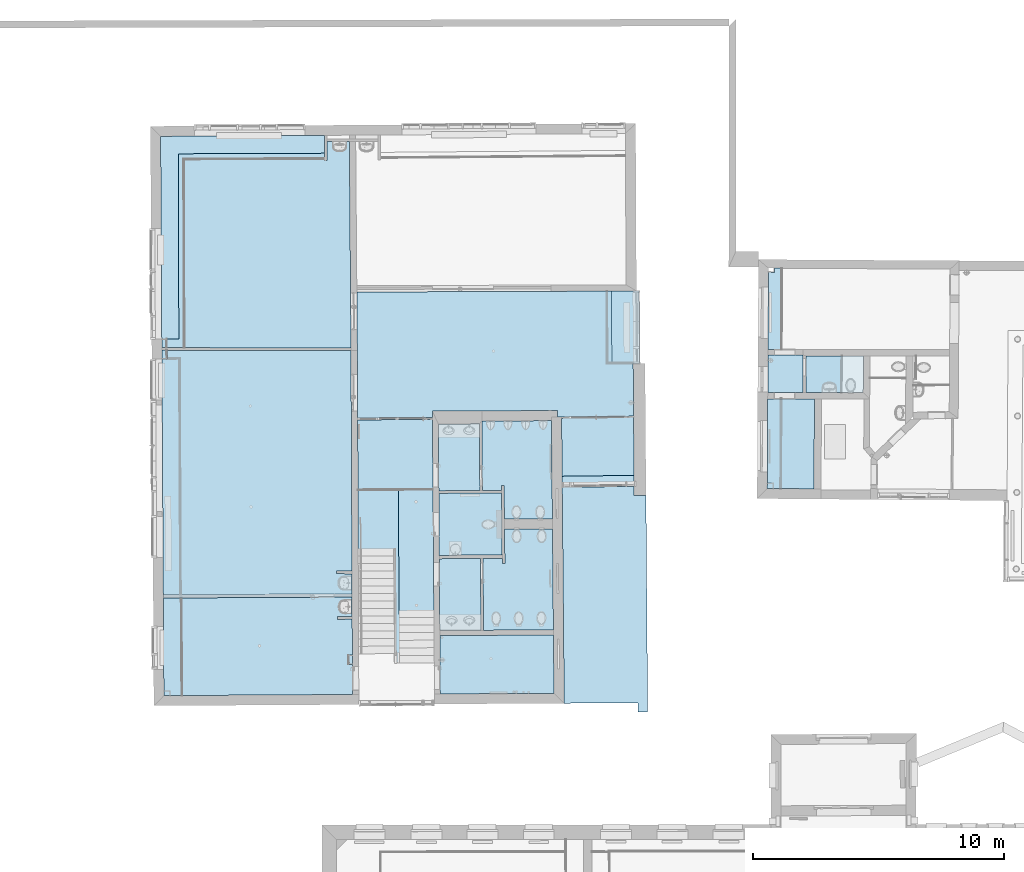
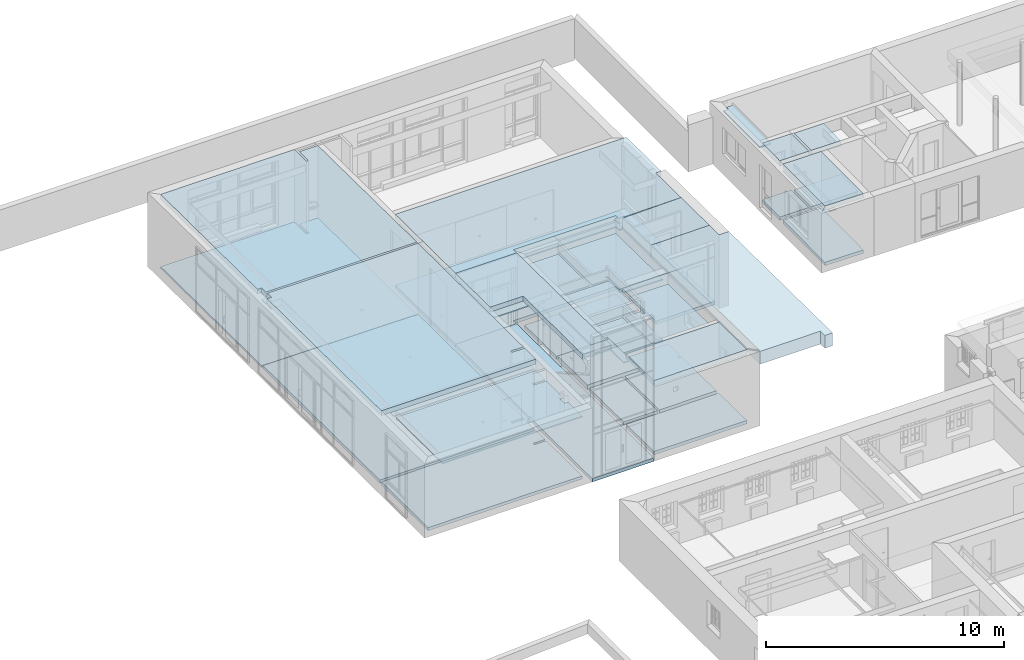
# One storey, part 11 of 196: 37 slabs.
"""IFC2X3 building model written with IfcOpenShell, lengths in metres."""

from ifc_helpers import new_model, entity, si_unit, converted_unit, derived_unit, money_unit, direction, frame, origin_with_axes, place, context, subcontext, project, spatial, polyline, outline, extrude, material, layer, layer_set, layer_usage, type_object, element, save


model = new_model("IFC2X3")

# Units and contexts
model_context = context("Model", 3, precision=1e-05, world=origin_with_axes(), true_north=direction((0.0, 1.0)))
body_context = subcontext(model_context, "Body", "Model", "MODEL_VIEW")
ifc_project = project(units=[si_unit("LENGTHUNIT", "METRE"), si_unit("AREAUNIT", "SQUARE_METRE"), si_unit("VOLUMEUNIT", "CUBIC_METRE"), converted_unit("PLANEANGLEUNIT", "DEGREE", entity("IfcPlaneAngleMeasure", 0.0174532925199), si_unit("PLANEANGLEUNIT", "RADIAN"), dimensions=[0, 0, 0, 0, 0, 0, 0]), money_unit("EUR"), converted_unit("TIMEUNIT", "Year", entity("IfcTimeMeasure", 31556926.0), si_unit("TIMEUNIT", "SECOND"), dimensions=[0, 0, 1, 0, 0, 0, 0]), si_unit("MASSUNIT", "GRAM", prefix="KILO"), si_unit("THERMODYNAMICTEMPERATUREUNIT", "DEGREE_CELSIUS"), si_unit("LUMINOUSINTENSITYUNIT", "LUMEN"), si_unit("ENERGYUNIT", "JOULE", prefix="MEGA"), derived_unit("THERMALCONDUCTANCEUNIT", [(si_unit("POWERUNIT", "WATT"), 1), (si_unit("LENGTHUNIT", "METRE"), -1), (si_unit("THERMODYNAMICTEMPERATUREUNIT", "KELVIN"), -1)]), derived_unit("SPECIFICHEATCAPACITYUNIT", [(si_unit("ENERGYUNIT", "JOULE"), 1), (si_unit("MASSUNIT", "GRAM", prefix="KILO"), -1), (si_unit("THERMODYNAMICTEMPERATUREUNIT", "KELVIN"), -1)]), derived_unit("MASSDENSITYUNIT", [(si_unit("MASSUNIT", "GRAM", prefix="KILO"), 1), (si_unit("VOLUMEUNIT", "CUBIC_METRE"), -1)])], contexts=[model_context])

# Site, building, storey
site_placement = place(None, origin_with_axes())
site = spatial("IfcSite", under=ifc_project, at=site_placement, Name="Gelände", CompositionType="ELEMENT")
building_placement = place(site_placement, origin_with_axes())
building = spatial("IfcBuilding", under=site, at=building_placement, Name="Gebäude", CompositionType="ELEMENT")
storey_placement = place(building_placement, frame((0.0, 0.0, -3.0), z_axis=(0.0, 0.0, 1.0), x_axis=(1.0, 0.0, 0.0)))
storey = spatial("IfcBuildingStorey", under=building, at=storey_placement, Name="KELLERGESCHOSS", CompositionType="ELEMENT", Elevation=-3.0)

# Slabs
ifc_material_1 = material(Name="05_ALLGEMEIN - TRAGENDE BAUTEILE")
ifc_layer_1 = layer(ifc_material_1, 0.26, ventilated="UNKNOWN")
ifc_layer_set_1 = layer_set([ifc_layer_1], Name="05_ALLGEMEIN - TRAGENDE BAUTEILE 0.26")
ifc_layer_usage_1 = layer_usage(ifc_layer_set_1, "AXIS3", "NEGATIVE", 0.26)
slab_type_1 = type_object("IfcSlabType", Name="05_ALLGEMEIN - TRAGENDE BAUTEILE 260", PredefinedType="NOTDEFINED")
slab_1_placement = place(storey_placement, frame((-34.4955833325, 44.6455932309, 3.8), z_axis=(0.0, 0.0, 1.0), x_axis=(1.0, 0.0, 0.0)))
element("IfcSlab", 1, at=slab_1_placement, inside=storey, type_object=slab_type_1, material=ifc_layer_usage_1, Name="Belag-004", PredefinedType="NOTDEFINED", context=body_context, shape_type="SweptSolid", body=[
    extrude(outline(polyline([(0.0, 0.0), (0.0558068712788, -9.51553296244), (7.57384137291, -9.47826287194), (7.56976644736, -8.55310763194), (6.95371037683, -8.54546593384), (6.95501258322, -8.44047405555), (7.56930400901, -8.44809370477), (7.53057163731, 0.345453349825), (7.53055928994, 0.347041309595), (0.213225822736, 0.34895603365), (0.214489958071, -0.00146771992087), (0.0, 0.0)])), origin_with_axes(), (0.0, 0.0, 1.0), 0.26),
])
ifc_layer_usage_2 = layer_usage(ifc_layer_set_1, "AXIS3", "NEGATIVE", 0.26)
slab_2_placement = place(storey_placement, frame((-26.7031726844, 42.3037204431, 3.8), z_axis=(0.0, 0.0, 1.0), x_axis=(1.0, 0.0, 0.0)))
element("IfcSlab", 2, at=slab_2_placement, inside=storey, type_object=slab_type_1, material=ifc_layer_usage_2, Name="Belag-005", PredefinedType="NOTDEFINED", context=body_context, shape_type="SweptSolid", body=[
    extrude(outline(polyline([(0.0, 0.0), (0.0127042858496, -2.88429875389), (1.62561769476, -2.87437844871), (1.64928907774, -7.83139113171), (3.03779351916, -7.81930969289), (2.980131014, 0.0119029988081), (0.0, 0.0)])), origin_with_axes(), (0.0, 0.0, 1.0), 0.26),
])
ifc_layer_usage_3 = layer_usage(ifc_layer_set_1, "AXIS3", "NEGATIVE", 0.26)
slab_3_placement = place(storey_placement, frame((-23.4291121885, 33.6341320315, 3.8), z_axis=(0.0, 0.0, 1.0), x_axis=(1.0, 0.0, 0.0)))
element("IfcSlab", 3, at=slab_3_placement, inside=storey, type_object=slab_type_1, material=ifc_layer_usage_3, Name="Belag-005", PredefinedType="NOTDEFINED", context=body_context, shape_type="SweptSolid", body=[
    extrude(outline(polyline([(0.0, 0.0), (0.0171166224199, -2.32462733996), (4.54606110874, -2.29751950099), (4.52483819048, 0.027002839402), (0.23475687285, 0.001400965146), (0.0, 0.0)])), origin_with_axes(), (0.0, 0.0, 1.0), 0.26),
])
ifc_layer_2 = layer(ifc_material_1, 0.21, ventilated="UNKNOWN")
ifc_layer_set_2 = layer_set([ifc_layer_2], Name="05_ALLGEMEIN - TRAGENDE BAUTEILE 0.21")
ifc_layer_usage_4 = layer_usage(ifc_layer_set_2, "AXIS3", "NEGATIVE", 0.21)
slab_type_2 = type_object("IfcSlabType", Name="05_ALLGEMEIN - TRAGENDE BAUTEILE 210", PredefinedType="NOTDEFINED")
slab_4_placement = place(storey_placement, frame((-10.3745432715, 43.0482890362, 3.29), z_axis=(0.0, 0.0, 1.0), x_axis=(1.0, 0.0, 0.0)))
element("IfcSlab", 4, at=slab_4_placement, inside=storey, type_object=slab_type_2, material=ifc_layer_usage_4, Name="Belag-008", PredefinedType="NOTDEFINED", context=body_context, shape_type="SweptSolid", body=[
    extrude(outline(polyline([(0.0, 0.0), (-0.0199024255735, -3.55736319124), (1.84337639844, -3.57275189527), (1.85895913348, -0.00164627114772), (0.0, 0.0)])), origin_with_axes(), (0.0, 0.0, 1.0), 0.21),
])
ifc_layer_3 = layer(ifc_material_1, 0.17, ventilated="UNKNOWN")
ifc_layer_set_3 = layer_set([ifc_layer_3], Name="05_ALLGEMEIN - TRAGENDE BAUTEILE 0.17")
ifc_layer_usage_5 = layer_usage(ifc_layer_set_3, "AXIS3", "NEGATIVE", 0.17)
slab_type_3 = type_object("IfcSlabType", Name="05_ALLGEMEIN - TRAGENDE BAUTEILE 170", PredefinedType="NOTDEFINED")
slab_5_placement = place(storey_placement, frame((-15.7142088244, 42.3691652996, 0.42), z_axis=(0.0, 0.0, 1.0), x_axis=(1.0, 0.0, 0.0)))
element("IfcSlab", 5, at=slab_5_placement, inside=storey, type_object=slab_type_3, material=ifc_layer_usage_5, Name="Belag-008", PredefinedType="NOTDEFINED", context=body_context, shape_type="SweptSolid", body=[
    extrude(outline(polyline([(0.0, 0.0), (-2.86923707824, -0.0346039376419), (-2.84372714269, -2.82867616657), (0.0215711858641, -2.7951869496), (0.0, 0.0)])), frame((0.0, 0.0, -0.17), z_axis=(0.0, 0.0, 1.0), x_axis=(1.0, 0.0, 0.0)), (0.0, 0.0, 1.0), 0.17),
])
ifc_layer_usage_6 = layer_usage(ifc_layer_set_3, "AXIS3", "NEGATIVE", 0.17)
slab_6_placement = place(storey_placement, frame((-26.7341125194, 47.3135195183, 0.42), z_axis=(0.0, 0.0, 1.0), x_axis=(1.0, 0.0, 0.0)))
element("IfcSlab", 6, at=slab_6_placement, inside=storey, type_object=slab_type_3, material=ifc_layer_usage_6, Name="Belag-008", PredefinedType="NOTDEFINED", context=body_context, shape_type="SweptSolid", body=[
    extrude(outline(polyline([(0.0, 0.0), (0.0309398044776, -5.00979907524), (3.01107082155, -4.9978960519), (3.00917895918, -4.7409513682), (7.98831566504, -4.72218749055), (7.990673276, -4.98041898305), (8.15066655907, -4.97895812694), (11.0199037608, -4.94435426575), (11.0037564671, -2.8520056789), (11.2633617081, -2.8499963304), (11.2409811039, 0.0414227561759), (11.1309843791, 0.0405713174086), (10.98098883, 0.0394103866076), (0.0, 0.0)])), frame((0.0, 0.0, -0.17), z_axis=(0.0, 0.0, 1.0), x_axis=(1.0, 0.0, 0.0)), (0.0, 0.0, 1.0), 0.17),
])
ifc_layer_usage_7 = layer_usage(ifc_layer_set_3, "AXIS3", "NEGATIVE", 0.17)
slab_7_placement = place(storey_placement, frame((-10.3730327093, 43.3182878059, 0.61), z_axis=(0.0, 0.0, 1.0), x_axis=(1.0, 0.0, 0.0)))
element("IfcSlab", 7, at=slab_7_placement, inside=storey, type_object=slab_type_3, material=ifc_layer_usage_7, Name="Belag-008", PredefinedType="NOTDEFINED", context=body_context, shape_type="SweptSolid", body=[
    extrude(outline(polyline([(0.0, 0.0), (1.40445707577, -0.00124377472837), (1.41083773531, 1.48422035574), (0.00830172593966, 1.48385109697), (0.0, 0.0)])), frame((0.0, 0.0, -0.17), z_axis=(0.0, 0.0, 1.0), x_axis=(1.0, 0.0, 0.0)), (0.0, 0.0, 1.0), 0.17),
])
ifc_layer_usage_8 = layer_usage(ifc_layer_set_3, "AXIS3", "NEGATIVE", 0.17)
slab_8_placement = place(storey_placement, frame((-21.8547375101, 42.069612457, 0.42), z_axis=(0.0, 0.0, 1.0), x_axis=(1.0, 0.0, 0.0)))
element("IfcSlab", 8, at=slab_8_placement, inside=storey, type_object=slab_type_3, material=ifc_layer_usage_8, Name="Belag-008", PredefinedType="NOTDEFINED", context=body_context, shape_type="SweptSolid", body=[
    extrude(outline(polyline([(0.0, 0.0), (-1.63644109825, -0.00616690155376), (-1.61682757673, -2.66990112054), (0.0175572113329, -2.66293450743), (0.0, 0.0)])), frame((0.0, 0.0, -0.17), z_axis=(0.0, 0.0, 1.0), x_axis=(1.0, 0.0, 0.0)), (0.0, 0.0, 1.0), 0.17),
])
ifc_layer_usage_9 = layer_usage(ifc_layer_set_3, "AXIS3", "NEGATIVE", 0.17)
slab_9_placement = place(storey_placement, frame((-10.3745432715, 43.0482890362, 0.61), z_axis=(0.0, 0.0, 1.0), x_axis=(1.0, 0.0, 0.0)))
element("IfcSlab", 9, at=slab_9_placement, inside=storey, type_object=slab_type_3, material=ifc_layer_usage_9, Name="Belag-009", PredefinedType="NOTDEFINED", context=body_context, shape_type="SweptSolid", body=[
    extrude(outline(polyline([(0.0, 0.0), (-0.0199024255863, -3.55736319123), (1.84337639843, -3.57275189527), (1.85895913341, -0.00164627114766), (0.0, 0.0)])), frame((0.0, 0.0, -0.17), z_axis=(0.0, 0.0, 1.0), x_axis=(1.0, 0.0, 0.0)), (0.0, 0.0, 1.0), 0.17),
])
ifc_layer_usage_10 = layer_usage(ifc_layer_set_3, "AXIS3", "NEGATIVE", 0.17)
slab_10_placement = place(storey_placement, frame((-20.942633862, 36.7075532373, 0.42), z_axis=(0.0, 0.0, 1.0), x_axis=(1.0, 0.0, 0.0)))
element("IfcSlab", 10, at=slab_10_placement, inside=storey, type_object=slab_type_3, material=ifc_layer_usage_10, Name="Belag-010", PredefinedType="NOTDEFINED", context=body_context, shape_type="SweptSolid", body=[
    extrude(outline(polyline([(0.0, 0.0), (-0.772396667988, -0.00453644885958), (-0.744695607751, -2.86302322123), (2.03653392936, -2.84642567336), (1.99988448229, 1.16774204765), (0.0873328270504, 1.16397596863), (0.102174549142, -0.199176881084), (0.00218047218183, -0.200265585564), (0.0, 0.0)])), frame((0.0, 0.0, -0.17), z_axis=(0.0, 0.0, 1.0), x_axis=(1.0, 0.0, 0.0)), (0.0, 0.0, 1.0), 0.17),
])
ifc_layer_usage_11 = layer_usage(ifc_layer_set_3, "AXIS3", "NEGATIVE", 0.17)
slab_11_placement = place(storey_placement, frame((-21.8150295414, 36.7024294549, 0.42), z_axis=(0.0, 0.0, 1.0), x_axis=(1.0, 0.0, 0.0)))
element("IfcSlab", 11, at=slab_11_placement, inside=storey, type_object=slab_type_3, material=ifc_layer_usage_11, Name="Belag-011", PredefinedType="NOTDEFINED", context=body_context, shape_type="SweptSolid", body=[
    extrude(outline(polyline([(0.0, 0.0), (-1.63660424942, -0.00961212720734), (-1.61555525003, -2.86830266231), (0.0277011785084, -2.85849619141), (0.0, 0.0)])), frame((0.0, 0.0, -0.17), z_axis=(0.0, 0.0, 1.0), x_axis=(1.0, 0.0, 0.0)), (0.0, 0.0, 1.0), 0.17),
])
ifc_layer_usage_12 = layer_usage(ifc_layer_set_3, "AXIS3", "NEGATIVE", 0.17)
slab_12_placement = place(storey_placement, frame((-23.4291121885, 33.6341320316, 0.42), z_axis=(0.0, 0.0, 1.0), x_axis=(1.0, 0.0, 0.0)))
element("IfcSlab", 12, at=slab_12_placement, inside=storey, type_object=slab_type_3, material=ifc_layer_usage_12, Name="Belag-012", PredefinedType="NOTDEFINED", context=body_context, shape_type="SweptSolid", body=[
    extrude(outline(polyline([(0.0, 0.0), (0.0171166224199, -2.32462733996), (4.54606110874, -2.29751950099), (4.52483819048, 0.027002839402), (0.23475687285, 0.001400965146), (0.0, 0.0)])), frame((0.0, 0.0, -0.17), z_axis=(0.0, 0.0, 1.0), x_axis=(1.0, 0.0, 0.0)), (0.0, 0.0, 1.0), 0.17),
])
ifc_layer_usage_13 = layer_usage(ifc_layer_set_3, "AXIS3", "NEGATIVE", 0.17)
slab_13_placement = place(storey_placement, frame((-26.703172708, 42.303720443, 0.42), z_axis=(0.0, 0.0, 1.0), x_axis=(1.0, 0.0, 0.0)))
element("IfcSlab", 13, at=slab_13_placement, inside=storey, type_object=slab_type_3, material=ifc_layer_usage_13, Name="Belag-013", PredefinedType="NOTDEFINED", context=body_context, shape_type="SweptSolid", body=[
    extrude(outline(polyline([(0.0, 0.0), (0.0485110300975, -11.01362463), (0.0536306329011, -11.0135939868), (0.0560247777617, -11.4135868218), (3.05490452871, -11.3956371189), (3.05251038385, -10.9956442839), (3.06118103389, -10.995592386), (2.98013103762, 0.0119029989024), (0.0, 0.0)])), frame((0.0, 0.0, -0.17), z_axis=(0.0, 0.0, 1.0), x_axis=(1.0, 0.0, 0.0)), (0.0, 0.0, 1.0), 0.17),
])
ifc_layer_4 = layer(ifc_material_1, 0.250000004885, ventilated="UNKNOWN")
ifc_layer_set_4 = layer_set([ifc_layer_4], Name="05_ALLGEMEIN - TRAGENDE BAUTEILE 0.25")
ifc_layer_usage_14 = layer_usage(ifc_layer_set_4, "AXIS3", "NEGATIVE", 0.25)
slab_type_4 = type_object("IfcSlabType", Name="05_ALLGEMEIN - TRAGENDE BAUTEILE 250", PredefinedType="NOTDEFINED")
slab_14_placement = place(storey_placement, frame((-34.5475826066, 53.5118963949, 3.81), z_axis=(0.0, 0.0, 1.0), x_axis=(1.0, 0.0, 0.0)))
element("IfcSlab", 14, at=slab_14_placement, inside=storey, type_object=slab_type_4, material=ifc_layer_usage_14, Name="Belag-004", PredefinedType="NOTDEFINED", context=body_context, shape_type="SweptSolid", body=[
    extrude(outline(polyline([(0.0, 0.0), (0.0473177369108, -8.06805885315), (0.252868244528, -8.06646519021), (0.251825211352, -8.41734364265), (7.58178080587, -8.41926158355), (7.51791153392, -0.206428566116), (6.62663388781, -0.206935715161), (6.62406461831, -0.959581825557), (6.51906523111, -0.95922339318), (6.52247122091, 0.0385326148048), (0.0, 0.0)])), origin_with_axes(), (0.0, 0.0, 1.0), 0.25),
])
ifc_layer_usage_15 = layer_usage(ifc_layer_set_4, "AXIS3", "NEGATIVE", 0.25)
slab_15_placement = place(storey_placement, frame((-15.7531237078, 47.3529299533, 3.81), z_axis=(0.0, 0.0, 1.0), x_axis=(1.0, 0.0, 0.0)))
element("IfcSlab", 15, at=slab_15_placement, inside=storey, type_object=slab_type_4, material=ifc_layer_usage_15, Name="Belag-005", PredefinedType="NOTDEFINED", context=body_context, shape_type="SweptSolid", body=[
    extrude(outline(polyline([(0.0, 0.0), (-10.9809888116, -0.03941037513), (-10.9500488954, -5.04920951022), (-7.96991789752, -5.03730656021), (-7.97180986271, -4.78036164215), (-2.99267321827, -4.76159790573), (-2.99031552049, -5.01982942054), (-2.8303221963, -5.01836861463), (0.0389149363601, -4.98376459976), (0.0227676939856, -2.89141019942), (0.282372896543, -2.88940675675), (0.259992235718, 0.00201230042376), (0.0, 0.0)])), origin_with_axes(), (0.0, 0.0, 1.0), 0.25),
])
ifc_layer_usage_16 = layer_usage(ifc_layer_set_4, "AXIS3", "NEGATIVE", 0.25)
slab_16_placement = place(storey_placement, frame((-20.9709727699, 39.3103692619, 0.5), z_axis=(0.0, 0.0, 1.0), x_axis=(1.0, 0.0, 0.0)))
element("IfcSlab", 16, at=slab_16_placement, inside=storey, type_object=slab_type_4, material=ifc_layer_usage_16, Name="Belag-008", PredefinedType="NOTDEFINED", context=body_context, shape_type="SweptSolid", body=[
    extrude(outline(polyline([(0.0, 0.0), (-2.49985602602, -0.0106556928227), (-2.4816616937, -2.48165130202), (0.0268593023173, -2.46691822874), (0.0, 0.0)])), frame((0.0, 0.0, -0.25), z_axis=(0.0, 0.0, 1.0), x_axis=(1.0, 0.0, 0.0)), (0.0, 0.0, 1.0), 0.25),
])
ifc_layer_5 = layer(ifc_material_1, 0.1, ventilated="UNKNOWN")
ifc_layer_set_5 = layer_set([ifc_layer_5], Name="05_ALLGEMEIN - TRAGENDE BAUTEILE 0.1")
ifc_layer_usage_17 = layer_usage(ifc_layer_set_5, "AXIS3", "NEGATIVE", 0.1)
slab_type_5 = type_object("IfcSlabType", Name="05_ALLGEMEIN - TRAGENDE BAUTEILE 100", PredefinedType="NOTDEFINED")
slab_17_placement = place(storey_placement, frame((-34.5475826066, 53.5118963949, 0.35), z_axis=(0.0, 0.0, 1.0), x_axis=(1.0, 0.0, 0.0)))
element("IfcSlab", 17, at=slab_17_placement, inside=storey, type_object=slab_type_5, material=ifc_layer_usage_17, Name="Belag-008", PredefinedType="NOTDEFINED", context=body_context, shape_type="SweptSolid", body=[
    extrude(outline(polyline([(0.0, 0.0), (0.0493658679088, -8.41729058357), (7.58178080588, -8.41926158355), (7.51791153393, -0.206428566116), (6.62663388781, -0.206935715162), (6.62406461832, -0.959581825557), (6.51906523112, -0.959223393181), (6.52247122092, 0.0385326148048), (0.0, 0.0)])), frame((0.0, 0.0, -0.1), z_axis=(0.0, 0.0, 1.0), x_axis=(1.0, 0.0, 0.0)), (0.0, 0.0, 1.0), 0.1),
])
ifc_layer_6 = layer(ifc_material_1, 0.16, ventilated="UNKNOWN")
ifc_layer_set_6 = layer_set([ifc_layer_6], Name="05_ALLGEMEIN - TRAGENDE BAUTEILE 0.16")
ifc_layer_usage_18 = layer_usage(ifc_layer_set_6, "AXIS3", "NEGATIVE", 0.16)
slab_type_6 = type_object("IfcSlabType", Name="05_ALLGEMEIN - TRAGENDE BAUTEILE 160", PredefinedType="NOTDEFINED")
slab_18_placement = place(storey_placement, frame((-34.4397764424, 35.1300602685, 0.41), z_axis=(0.0, 0.0, 1.0), x_axis=(1.0, 0.0, 0.0)))
element("IfcSlab", 18, at=slab_18_placement, inside=storey, type_object=slab_type_6, material=ifc_layer_usage_18, Name="Belag-007", PredefinedType="NOTDEFINED", context=body_context, shape_type="SweptSolid", body=[
    extrude(outline(polyline([(0.0, 0.0), (0.0227931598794, -3.88642559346), (7.53511893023, -3.84146075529), (7.52190613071, -0.841715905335), (6.93134962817, -0.848940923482), (6.93006512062, -0.743948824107), (7.52144364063, -0.736713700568), (7.51803453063, 0.0372701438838), (0.0, 0.0)])), frame((0.0, 0.0, -0.16), z_axis=(0.0, 0.0, 1.0), x_axis=(1.0, 0.0, 0.0)), (0.0, 0.0, 1.0), 0.16),
])
ifc_layer_usage_19 = layer_usage(ifc_layer_set_6, "AXIS3", "NEGATIVE", 0.16)
slab_19_placement = place(storey_placement, frame((-8.8585750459, 43.316946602, 0.6), z_axis=(0.0, 0.0, 1.0), x_axis=(1.0, 0.0, 0.0)))
element("IfcSlab", 19, at=slab_19_placement, inside=storey, type_object=slab_type_6, material=ifc_layer_usage_19, Name="Belag-008", PredefinedType="NOTDEFINED", context=body_context, shape_type="SweptSolid", body=[
    extrude(outline(polyline([(0.0, 0.0), (2.28626936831, -0.00202468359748), (2.29400787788, 1.45619277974), (0.00625235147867, 1.45559046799), (0.0, 0.0)])), frame((0.0, 0.0, -0.16), z_axis=(0.0, 0.0, 1.0), x_axis=(1.0, 0.0, 0.0)), (0.0, 0.0, 1.0), 0.16),
])
ifc_layer_7 = layer(ifc_material_1, 0.28, ventilated="UNKNOWN")
ifc_layer_set_7 = layer_set([ifc_layer_7], Name="05_ALLGEMEIN - TRAGENDE BAUTEILE 0.28")
ifc_layer_usage_20 = layer_usage(ifc_layer_set_7, "AXIS3", "NEGATIVE", 0.28)
slab_type_7 = type_object("IfcSlabType", Name="05_ALLGEMEIN - TRAGENDE BAUTEILE 280", PredefinedType="NOTDEFINED")
slab_20_placement = place(storey_placement, frame((-8.8585750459, 43.3169466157, 3.22), z_axis=(0.0, 0.0, 1.0), x_axis=(1.0, 0.0, 0.0)))
element("IfcSlab", 20, at=slab_20_placement, inside=storey, type_object=slab_type_7, material=ifc_layer_usage_20, Name="Belag-006", PredefinedType="NOTDEFINED", context=body_context, shape_type="SweptSolid", body=[
    extrude(outline(polyline([(0.0, 0.0), (1.43577120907, -0.00127150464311), (1.4526355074, 1.45597126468), (0.00625236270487, 1.45559046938), (0.0, 0.0)])), origin_with_axes(), (0.0, 0.0, 1.0), 0.28),
])
ifc_layer_8 = layer(ifc_material_1, 0.29, ventilated="UNKNOWN")
ifc_layer_set_8 = layer_set([ifc_layer_8], Name="05_ALLGEMEIN - TRAGENDE BAUTEILE 0.29")
ifc_layer_usage_21 = layer_usage(ifc_layer_set_8, "AXIS3", "NEGATIVE", 0.29)
slab_type_8 = type_object("IfcSlabType", Name="05_ALLGEMEIN - TRAGENDE BAUTEILE 290", PredefinedType="NOTDEFINED")
slab_21_placement = place(storey_placement, frame((-10.3647309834, 44.8021389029, 3.21), z_axis=(0.0, 0.0, 1.0), x_axis=(1.0, 0.0, 0.0)))
element("IfcSlab", 21, at=slab_21_placement, inside=storey, type_object=slab_type_8, material=ifc_layer_usage_21, Name="Belag-005", PredefinedType="NOTDEFINED", context=body_context, shape_type="SweptSolid", body=[
    extrude(outline(polyline([(0.0, 0.0), (-0.0083017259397, -1.48385109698), (1.39615534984, -1.48509487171), (1.40253600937, 0.00036925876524), (0.0, 0.0)])), origin_with_axes(), (0.0, 0.0, 1.0), 0.29),
])
ifc_material_2 = material(Name="01_ALLGEMEIN - BAUTEIL")
ifc_layer_9 = layer(ifc_material_2, 0.06, ventilated="UNKNOWN")
ifc_layer_set_9 = layer_set([ifc_layer_9], Name="01_ALLGEMEIN - BAUTEIL 0.06")
ifc_layer_usage_22 = layer_usage(ifc_layer_set_9, "AXIS3", "NEGATIVE", 0.06)
slab_type_9 = type_object("IfcSlabType", Name="01_ALLGEMEIN - BAUTEIL 60", PredefinedType="NOTDEFINED")
slab_22_placement = place(storey_placement, frame((-26.921741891, 35.167330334, 3.42), z_axis=(0.0, 0.0, 1.0), x_axis=(1.0, 0.0, 0.0)))
element("IfcSlab", 22, at=slab_22_placement, inside=storey, type_object=slab_type_9, material=ifc_layer_usage_22, Name="Belag-004", PredefinedType="NOTDEFINED", context=body_context, shape_type="SweptSolid", body=[
    extrude(outline(polyline([(0.0, 0.0), (-6.81373569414, -0.0337786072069), (-6.78902724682, -3.9194686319), (0.0170843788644, -3.87873083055), (0.0118070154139, -2.68058916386), (-0.153250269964, -2.68122197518), (-0.155655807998, -2.30850201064), (0.0101680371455, -2.30850201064), (0.00387157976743, -0.878986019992), (-0.586684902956, -0.886211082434), (-0.587969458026, -0.781218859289), (0.00340905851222, -0.773983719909), (0.0, 0.0)])), origin_with_axes(), (0.0, 0.0, 1.0), 0.06),
])
ifc_layer_usage_23 = layer_usage(ifc_layer_set_9, "AXIS3", "NEGATIVE", 0.06)
slab_23_placement = place(storey_placement, frame((-28.0262375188, 52.838283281, 3.42), z_axis=(0.0, 0.0, 1.0), x_axis=(1.0, 0.0, 0.0)))
element("IfcSlab", 23, at=slab_23_placement, inside=storey, type_object=slab_type_9, material=ifc_layer_usage_23, Name="Belag-004", PredefinedType="NOTDEFINED", context=body_context, shape_type="SweptSolid", body=[
    extrude(outline(polyline([(0.0, 0.0), (-5.81315082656, -0.0227574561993), (-5.79450652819, -7.38844681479), (-6.26849209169, -7.39799145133), (-6.26951990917, -7.74373050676), (1.0604357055, -7.74564846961), (0.996566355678, 0.467184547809), (0.105288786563, 0.466677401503), (0.102719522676, -0.285968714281), (-0.00227983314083, -0.285610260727), (0.0, 0.0)])), origin_with_axes(), (0.0, 0.0, 1.0), 0.06),
])
ifc_layer_usage_24 = layer_usage(ifc_layer_set_9, "AXIS3", "NEGATIVE", 0.06)
slab_24_placement = place(storey_placement, frame((-16.5977035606, 47.3498987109, 3.43), z_axis=(0.0, 0.0, 1.0), x_axis=(1.0, 0.0, 0.0)))
element("IfcSlab", 24, at=slab_24_placement, inside=storey, type_object=slab_type_9, material=ifc_layer_usage_24, Name="Belag-004", PredefinedType="NOTDEFINED", context=body_context, shape_type="SweptSolid", body=[
    extrude(outline(polyline([(0.0, 0.0), (-10.1353620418, -0.036375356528), (-10.1173125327, -2.35732946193), (-10.1054693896, -5.04613245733), (-10.1054690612, -5.04617826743), (-7.12533810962, -5.0342751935), (-7.12722995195, -4.77733059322), (-2.14809337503, -4.7585666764), (-2.14573571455, -5.01679822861), (-1.98574581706, -5.01533739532), (-1.98575780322, -5.01430888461), (0.883326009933, -4.98073533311), (0.883494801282, -4.98073336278), (0.867347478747, -2.88838497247), (0.866960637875, -2.88838792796), (0.866960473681, -2.88837709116), (0.0175153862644, -2.88436238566), (0.0, 0.0)])), origin_with_axes(), (0.0, 0.0, 1.0), 0.06),
])
ifc_layer_usage_25 = layer_usage(ifc_layer_set_9, "AXIS3", "NEGATIVE", 0.06)
slab_25_placement = place(storey_placement, frame((-23.4911786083, 42.0634455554, 3.43), z_axis=(0.0, 0.0, 1.0), x_axis=(1.0, 0.0, 0.0)))
element("IfcSlab", 25, at=slab_25_placement, inside=storey, type_object=slab_type_9, material=ifc_layer_usage_25, Name="Belag-004", PredefinedType="NOTDEFINED", context=body_context, shape_type="SweptSolid", body=[
    extrude(outline(polyline([(0.0, 0.0), (0.0196135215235, -2.66373421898), (1.65399830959, -2.65676760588), (1.63644109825, 0.00616690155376), (0.0, 0.0)])), origin_with_axes(), (0.0, 0.0, 1.0), 0.06),
])
ifc_layer_usage_26 = layer_usage(ifc_layer_set_9, "AXIS3", "NEGATIVE", 0.06)
slab_26_placement = place(storey_placement, frame((-20.9709727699, 39.3103692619, 3.43), z_axis=(0.0, 0.0, 1.0), x_axis=(1.0, 0.0, 0.0)))
element("IfcSlab", 26, at=slab_26_placement, inside=storey, type_object=slab_type_9, material=ifc_layer_usage_26, Name="Belag-004", PredefinedType="NOTDEFINED", context=body_context, shape_type="SweptSolid", body=[
    extrude(outline(polyline([(0.0, 0.0), (-2.49985602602, -0.0106556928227), (-2.4816616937, -2.48165130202), (0.0268593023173, -2.46691822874), (0.0, 0.0)])), origin_with_axes(), (0.0, 0.0, 1.0), 0.06),
])
ifc_layer_usage_27 = layer_usage(ifc_layer_set_9, "AXIS3", "NEGATIVE", 0.06)
slab_27_placement = place(storey_placement, frame((-26.9223145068, 35.2973291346, 3.42), z_axis=(0.0, 0.0, 1.0), x_axis=(1.0, 0.0, 0.0)))
element("IfcSlab", 27, at=slab_27_placement, inside=storey, type_object=slab_type_9, material=ifc_layer_usage_27, Name="Belag-004", PredefinedType="NOTDEFINED", context=body_context, shape_type="SweptSolid", body=[
    extrude(outline(polyline([(0.0, 0.0), (-0.00350237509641, 0.795156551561), (-0.619558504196, 0.802798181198), (-0.618256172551, 0.907790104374), (-0.00396492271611, 0.900170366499), (-0.042697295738, 9.69371740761), (-7.3600429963, 9.69722012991), (-7.35877880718, 9.34679639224), (-6.88108539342, 9.34942714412), (-6.83929052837, -0.0356195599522), (0.0, 0.0)])), origin_with_axes(), (0.0, 0.0, 1.0), 0.06),
])
ifc_layer_usage_28 = layer_usage(ifc_layer_set_9, "AXIS3", "NEGATIVE", 0.06)
slab_28_placement = place(storey_placement, frame((-21.8150295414, 36.7024294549, 3.42), z_axis=(0.0, 0.0, 1.0), x_axis=(1.0, 0.0, 0.0)))
element("IfcSlab", 28, at=slab_28_placement, inside=storey, type_object=slab_type_9, material=ifc_layer_usage_28, Name="Belag-005", PredefinedType="NOTDEFINED", context=body_context, shape_type="SweptSolid", body=[
    extrude(outline(polyline([(0.0, 0.0), (-1.63660424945, -0.00961212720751), (-1.61555525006, -2.86830266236), (0.0277011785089, -2.85849619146), (0.0, 0.0)])), origin_with_axes(), (0.0, 0.0, 1.0), 0.06),
])
ifc_layer_usage_29 = layer_usage(ifc_layer_set_9, "AXIS3", "NEGATIVE", 0.06)
slab_29_placement = place(storey_placement, frame((-26.7028203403, 42.2237211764, 3.42), z_axis=(0.0, 0.0, 1.0), x_axis=(1.0, 0.0, 0.0)))
element("IfcSlab", 29, at=slab_29_placement, inside=storey, type_object=slab_type_9, material=ifc_layer_usage_29, Name="Belag-005", PredefinedType="NOTDEFINED", context=body_context, shape_type="SweptSolid", body=[
    extrude(outline(polyline([(0.0, 0.0), (0.0123519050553, -2.80429948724), (3.00096853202, -2.78591785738), (2.97977865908, 0.0919023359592), (2.97975491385, 0.0919022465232), (2.98007442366, 0.0119027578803), (0.0, 0.0)])), origin_with_axes(), (0.0, 0.0, 1.0), 0.06),
])
ifc_layer_usage_30 = layer_usage(ifc_layer_set_9, "AXIS3", "NEGATIVE", 0.06)
slab_30_placement = place(storey_placement, frame((-21.71503053, 36.7030167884, 3.42), z_axis=(0.0, 0.0, 1.0), x_axis=(1.0, 0.0, 0.0)))
element("IfcSlab", 30, at=slab_30_placement, inside=storey, type_object=slab_type_9, material=ifc_layer_usage_30, Name="Belag-005", PredefinedType="NOTDEFINED", context=body_context, shape_type="SweptSolid", body=[
    extrude(outline(polyline([(0.0, 0.0), (0.0277010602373, -2.85848677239), (2.80893059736, -2.84188922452), (2.77228115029, 1.17227849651), (0.859729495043, 1.16851241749), (0.874571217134, -0.194640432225), (0.774577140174, -0.195729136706), (0.772396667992, 0.00453644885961), (0.0, 0.0)])), origin_with_axes(), (0.0, 0.0, 1.0), 0.06),
])
ifc_layer_usage_31 = layer_usage(ifc_layer_set_9, "AXIS3", "NEGATIVE", 0.06)
slab_31_placement = place(storey_placement, frame((-18.9821467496, 42.1904385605, 3.42), z_axis=(0.0, 0.0, 1.0), x_axis=(1.0, 0.0, 0.0)))
element("IfcSlab", 31, at=slab_31_placement, inside=storey, type_object=slab_type_9, material=ifc_layer_usage_31, Name="Belag-005", PredefinedType="NOTDEFINED", context=body_context, shape_type="SweptSolid", body=[
    extrude(outline(polyline([(0.0, 0.0), (-2.77331630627, -0.0104512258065), (-2.75503417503, -2.78333434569), (-1.98991477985, -2.78007301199), (-1.99215124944, -2.57466141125), (-1.89215718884, -2.57357270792), (-1.87761821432, -3.90891735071), (0.0356540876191, -3.90514984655), (0.0, 0.0)])), origin_with_axes(), (0.0, 0.0, 1.0), 0.06),
])
ifc_layer_usage_32 = layer_usage(ifc_layer_set_9, "AXIS3", "NEGATIVE", 0.06)
slab_32_placement = place(storey_placement, frame((-10.3745432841, 43.0482890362, 3.1), z_axis=(0.0, 0.0, 1.0), x_axis=(1.0, 0.0, 0.0)))
element("IfcSlab", 32, at=slab_32_placement, inside=storey, type_object=slab_type_9, material=ifc_layer_usage_32, Name="Belag-007", PredefinedType="NOTDEFINED", context=body_context, shape_type="SweptSolid", body=[
    extrude(outline(polyline([(0.0, 0.0), (-0.0187190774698, -3.34585353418), (0.237761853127, -3.33588766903), (0.230688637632, -3.55942883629), (0.535502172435, -3.56194145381), (0.55707844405, -0.000493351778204), (0.0, 0.0)])), origin_with_axes(), (0.0, 0.0, 1.0), 0.06),
])
ifc_layer_usage_33 = layer_usage(ifc_layer_set_9, "AXIS3", "NEGATIVE", 0.06)
slab_33_placement = place(storey_placement, frame((-10.34626932, 48.1019839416, 3.1), z_axis=(0.0, 0.0, 1.0), x_axis=(1.0, 0.0, 0.0)))
element("IfcSlab", 33, at=slab_33_placement, inside=storey, type_object=slab_type_9, material=ifc_layer_usage_33, Name="Belag-007", PredefinedType="NOTDEFINED", context=body_context, shape_type="SweptSolid", body=[
    extrude(outline(polyline([(0.0, 0.0), (-0.0171748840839, -3.06984468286), (0.537951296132, -3.06969853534), (0.546581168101, 0.156732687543), (0.234338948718, 0.158524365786), (0.237371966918, -0.00463948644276), (0.0, 0.0)])), origin_with_axes(), (0.0, 0.0, 1.0), 0.06),
])
ifc_layer_10 = layer(ifc_material_1, 0.12, ventilated="UNKNOWN")
ifc_layer_set_10 = layer_set([ifc_layer_10], Name="05_ALLGEMEIN - TRAGENDE BAUTEILE 0.12")
ifc_layer_usage_34 = layer_usage(ifc_layer_set_10, "AXIS3", "NEGATIVE", 0.12)
slab_type_10 = type_object("IfcSlabType", Name="05_ALLGEMEIN - TRAGENDE BAUTEILE 120", PredefinedType="NOTDEFINED")
slab_34_placement = place(storey_placement, frame((-18.9821467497, 42.1904385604, 0.37), z_axis=(0.0, 0.0, 1.0), x_axis=(1.0, 0.0, 0.0)))
element("IfcSlab", 34, at=slab_34_placement, inside=storey, type_object=slab_type_10, material=ifc_layer_usage_34, Name="Belag-009", PredefinedType="NOTDEFINED", context=body_context, shape_type="SweptSolid", body=[
    extrude(outline(polyline([(0.0, 0.0), (-2.77331630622, -0.0104512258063), (-2.75503417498, -2.78333434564), (-1.98991477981, -2.78007301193), (-1.9921512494, -2.5746614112), (-1.8921571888, -2.57357270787), (-1.87761821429, -3.90891735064), (0.0356540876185, -3.90514984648), (0.0, 0.0)])), frame((0.0, 0.0, -0.12), z_axis=(0.0, 0.0, 1.0), x_axis=(1.0, 0.0, 0.0)), (0.0, 0.0, 1.0), 0.12),
])
ifc_layer_11 = layer(ifc_material_1, 0.63, ventilated="UNKNOWN")
ifc_layer_set_11 = layer_set([ifc_layer_11], Name="05_ALLGEMEIN - TRAGENDE BAUTEILE 0.63")
ifc_layer_usage_35 = layer_usage(ifc_layer_set_11, "AXIS3", "NEGATIVE", 0.63)
slab_type_11 = type_object("IfcSlabType", Name="05_ALLGEMEIN - TRAGENDE BAUTEILE 630", PredefinedType="NOTDEFINED")
slab_35_placement = place(storey_placement, frame((-18.5834459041, 42.3345613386, 3.43), z_axis=(0.0, 0.0, 1.0), x_axis=(1.0, 0.0, 0.0)))
element("IfcSlab", 35, at=slab_35_placement, inside=storey, type_object=slab_type_11, material=ifc_layer_usage_35, Name="Belag-005", PredefinedType="NOTDEFINED", context=body_context, shape_type="SweptSolid", body=[
    extrude(outline(polyline([(0.0, 0.0), (0.0215216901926, -2.35724438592), (2.88741404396, -2.32076099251), (2.86923712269, 0.034604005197), (0.000569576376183, -0.0489680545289), (0.0, 0.0)])), origin_with_axes(), (0.0, 0.0, 1.0), 0.63),
])
ifc_layer_12 = layer(ifc_material_1, 0.66, ventilated="UNKNOWN")
ifc_layer_set_12 = layer_set([ifc_layer_12], Name="05_ALLGEMEIN - TRAGENDE BAUTEILE 0.66")
ifc_layer_usage_36 = layer_usage(ifc_layer_set_12, "AXIS3", "NEGATIVE", 0.66)
slab_type_12 = type_object("IfcSlabType", Name="05_ALLGEMEIN - TRAGENDE BAUTEILE 660", PredefinedType="NOTDEFINED")
slab_36_placement = place(storey_placement, frame((-18.5619242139, 39.9773169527, 3.4), z_axis=(0.0, 0.0, 1.0), x_axis=(1.0, 0.0, 0.0)))
element("IfcSlab", 36, at=slab_36_placement, inside=storey, type_object=slab_type_12, material=ifc_layer_usage_36, Name="Belag-005", PredefinedType="NOTDEFINED", context=body_context, shape_type="SweptSolid", body=[
    extrude(outline(polyline([(0.0, 0.0), (0.0825198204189, -9.03829555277), (3.02642970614, -9.02067487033), (3.02863550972, -9.38920128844), (3.40862419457, -9.38626881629), (3.34209429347, -0.765348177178), (2.87210828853, -0.768975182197), (2.86589235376, 0.0364834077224), (0.0, 0.0)])), origin_with_axes(), (0.0, 0.0, 1.0), 0.66),
])
ifc_layer_13 = layer(ifc_material_1, 0.171025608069, ventilated="UNKNOWN")
ifc_layer_set_13 = layer_set([ifc_layer_13], Name="05_ALLGEMEIN - TRAGENDE BAUTEILE 0.171026")
ifc_layer_usage_37 = layer_usage(ifc_layer_set_13, "AXIS3", "NEGATIVE", 0.171025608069)
slab_type_13 = type_object("IfcSlabType", Name="05_ALLGEMEIN - TRAGENDE BAUTEILE 171", PredefinedType="NOTDEFINED")
slab_37_placement = place(storey_placement, frame((-34.4976302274, 44.994605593, 0.421025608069), z_axis=(0.0, 0.0, 1.0), x_axis=(1.0, 0.0, 0.0)))
element("IfcSlab", 37, at=slab_37_placement, inside=storey, type_object=slab_type_13, material=ifc_layer_usage_37, Name="Belag-007", PredefinedType="NOTDEFINED", context=body_context, shape_type="SweptSolid", body=[
    extrude(outline(polyline([(0.0, 0.0), (0.0570913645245, -9.734547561), (7.57531566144, -9.69727638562), (7.57181327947, -8.90211992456), (6.95575727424, -8.89447836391), (6.95705958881, -8.78948639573), (7.57135084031, -8.7971060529), (7.53261851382, -0.00355895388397), (7.53260618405, -0.001971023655), (0.0, 0.0)])), frame((0.0, 0.0, -0.171025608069), z_axis=(0.0, 0.0, 1.0), x_axis=(1.0, 0.0, 0.0)), (0.0, 0.0, 1.0), 0.171025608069),
])

save(model, "model.ifc")
